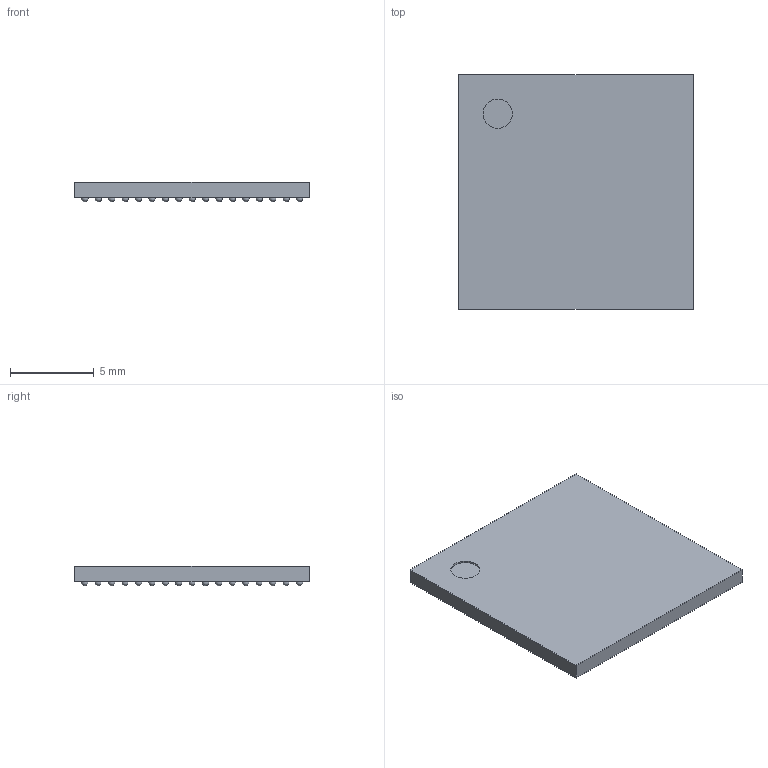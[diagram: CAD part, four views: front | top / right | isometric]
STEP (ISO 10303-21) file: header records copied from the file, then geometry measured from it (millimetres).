
FILE_DESCRIPTION(('Open CASCADE Model'),'2;1');
FILE_NAME('Open CASCADE Shape Model','2026-03-27T15:04:09',('Author'),( 'Open CASCADE'),'Open CASCADE STEP processor 7.5','Open CASCADE 7.5' ,'Unknown');
FILE_SCHEMA(('AUTOMOTIVE_DESIGN { 1 0 10303 214 1 1 1 1 }'));
Length unit declared in the file: millimetre
Products named in the file (7): PCB; Designator1; 6861023776; Open CASCADE STEP translator 7.5 26.1; Body; Open CASCADE STEP translator 7.5 26.2.1; ball
Assembly tree (269 placements, depth 4):
  PCB
  Designator1
    6861023776
      Open CASCADE STEP translator 7.5 26.1
      Body
        Open CASCADE STEP translator 7.5 26.2.1
      ball  x265
Bounding box: 14 x 14 x 1.17 mm (x, y, z)
Volume: 189.8 mm3; surface area: 586.5 mm2
Topology: 266 solids, 267 shells, 274 faces, 811 edges, 541 vertices
Faces by surface type: sphere 265, plane 8, cylinder 1
Full cylindrical faces by diameter (mm): 1.75 x1
Entity records: 2487 total; most frequent: DIRECTION 579, CARTESIAN_POINT 308, AXIS2_PLACEMENT_3D 283, PRODUCT_DEFINITION_SHAPE 276, CONTEXT_DEPENDENT_SHAPE_REPRESENTATION 269, ITEM_DEFINED_TRANSFORMATION 269, NEXT_ASSEMBLY_USAGE_OCCURRENCE 269, ORIENTED_EDGE 31
